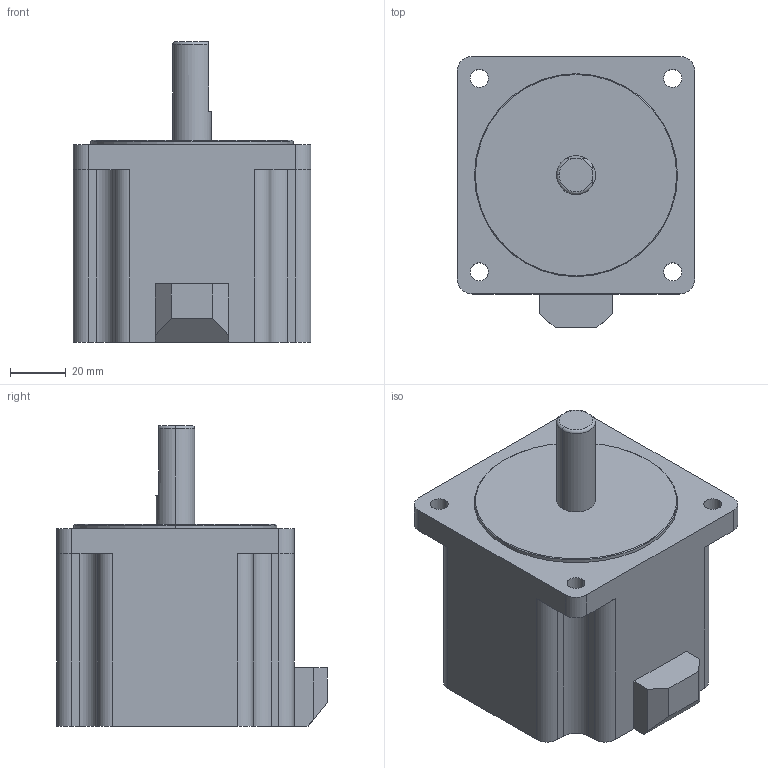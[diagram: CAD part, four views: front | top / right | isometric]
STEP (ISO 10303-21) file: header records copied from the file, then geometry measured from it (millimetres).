
FILE_DESCRIPTION (( 'STEP AP203' ), '1' );
FILE_NAME ('PMSA-B86D1H_3D.STEP', '2016-12-02T02:58:02', ( 'user01' ), ( '' ), 'SwSTEP 2.0', 'SolidWorks 2014', '' );
FILE_SCHEMA (( 'CONFIG_CONTROL_DESIGN' ));
Length unit declared in the file: millimetre
Products named in the file (1): PMSA-B86D1H_3D
Bounding box: 85.5 x 97.5 x 108.1 mm (x, y, z)
Volume: 480103.7 mm3; surface area: 41780.4 mm2
Topology: 1 solids, 2 shells, 70 faces, 187 edges, 123 vertices
Faces by surface type: plane 33, cylinder 30, cone 4, torus 3
Entity records: 2360 total; most frequent: CARTESIAN_POINT 449, DIRECTION 399, ORIENTED_EDGE 374, EDGE_CURVE 187, AXIS2_PLACEMENT_3D 145, VERTEX_POINT 123, LINE 109, VECTOR 109
